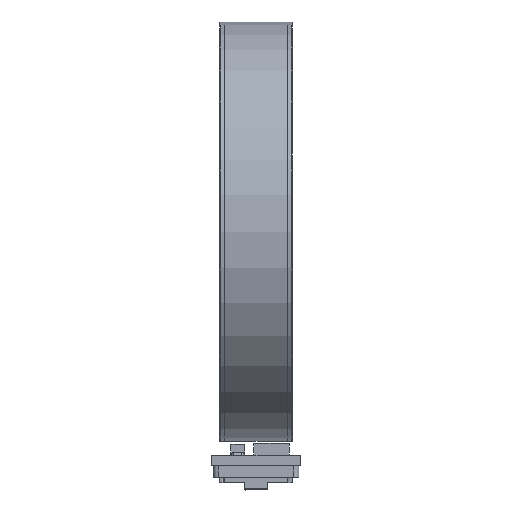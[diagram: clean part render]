
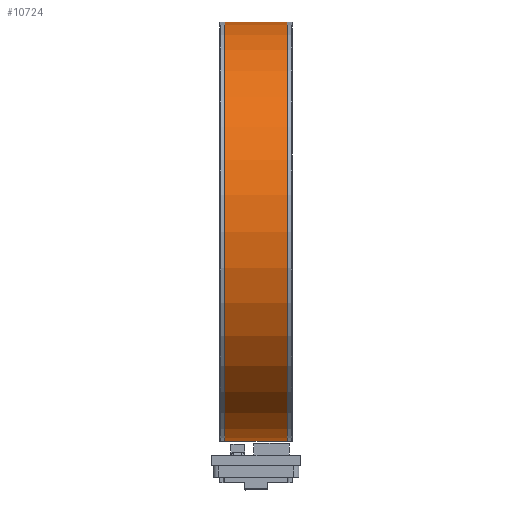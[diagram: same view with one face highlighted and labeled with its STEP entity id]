
A CAD part, left-side view. The second image highlights one B-rep face of the part: STEP entity #10724.
In plain terms, the highlighted cylindrical face has radius 40.45 mm (diameter 80.9 mm), a partial arc.
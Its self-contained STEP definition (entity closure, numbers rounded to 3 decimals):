
#1240 = ORIENTED_EDGE ( 'NONE', *, *, #12932, .F. ) ;
#2933 = DIRECTION ( 'NONE',  ( 0., 1., 0. ) ) ;
#3810 = LINE ( 'NONE', #56870, #27919 ) ;
#4686 = VECTOR ( 'NONE', #43156, 1000. ) ;
#5500 = EDGE_LOOP ( 'NONE', ( #1240, #51373, #27712, #52642 ) ) ;
#5781 = CIRCLE ( 'NONE', #32168, 40.45 ) ;
#8266 = FACE_OUTER_BOUND ( 'NONE', #5500, .T. ) ;
#10724 = ADVANCED_FACE ( 'NONE', ( #8266 ), #61633, .T. ) ;
#11916 = AXIS2_PLACEMENT_3D ( 'NONE', #17562, #12329, #52278 ) ;
#12329 = DIRECTION ( 'NONE',  ( 0., -1., 0. ) ) ;
#12932 = EDGE_CURVE ( 'NONE', #45409, #30797, #3810, .T. ) ;
#14472 = CARTESIAN_POINT ( 'NONE',  ( 0., 13., -40.45 ) ) ;
#17562 = CARTESIAN_POINT ( 'NONE',  ( 0., 13., 0. ) ) ;
#18222 = AXIS2_PLACEMENT_3D ( 'NONE', #61227, #28189, #75453 ) ;
#23310 = CARTESIAN_POINT ( 'NONE',  ( 0., 1., 0. ) ) ;
#24221 = VERTEX_POINT ( 'NONE', #30362 ) ;
#27712 = ORIENTED_EDGE ( 'NONE', *, *, #46817, .T. ) ;
#27919 = VECTOR ( 'NONE', #83250, 1000. ) ;
#28189 = DIRECTION ( 'NONE',  ( 0., 1., 0. ) ) ;
#28464 = CIRCLE ( 'NONE', #11916, 40.45 ) ;
#30362 = CARTESIAN_POINT ( 'NONE',  ( 0., 1., 40.45 ) ) ;
#30797 = VERTEX_POINT ( 'NONE', #14472 ) ;
#32168 = AXIS2_PLACEMENT_3D ( 'NONE', #23310, #2933, #49032 ) ;
#42696 = LINE ( 'NONE', #76018, #4686 ) ;
#43156 = DIRECTION ( 'NONE',  ( 0., 1., 0. ) ) ;
#45409 = VERTEX_POINT ( 'NONE', #55207 ) ;
#46817 = EDGE_CURVE ( 'NONE', #24221, #79827, #42696, .T. ) ;
#47480 = CARTESIAN_POINT ( 'NONE',  ( 0., 13., 40.45 ) ) ;
#49032 = DIRECTION ( 'NONE',  ( 0., 0., 1. ) ) ;
#51373 = ORIENTED_EDGE ( 'NONE', *, *, #83540, .T. ) ;
#52278 = DIRECTION ( 'NONE',  ( 0., 0., -1. ) ) ;
#52642 = ORIENTED_EDGE ( 'NONE', *, *, #62360, .T. ) ;
#55207 = CARTESIAN_POINT ( 'NONE',  ( 0., 1., -40.45 ) ) ;
#56870 = CARTESIAN_POINT ( 'NONE',  ( 0., -15., -40.45 ) ) ;
#61227 = CARTESIAN_POINT ( 'NONE',  ( 0., -15., 0. ) ) ;
#61633 = CYLINDRICAL_SURFACE ( 'NONE', #18222, 40.45 ) ;
#62360 = EDGE_CURVE ( 'NONE', #79827, #30797, #28464, .T. ) ;
#75453 = DIRECTION ( 'NONE',  ( 0., 0., 1. ) ) ;
#76018 = CARTESIAN_POINT ( 'NONE',  ( 0., -15., 40.45 ) ) ;
#79827 = VERTEX_POINT ( 'NONE', #47480 ) ;
#83250 = DIRECTION ( 'NONE',  ( 0., 1., 0. ) ) ;
#83540 = EDGE_CURVE ( 'NONE', #45409, #24221, #5781, .T. ) ;
